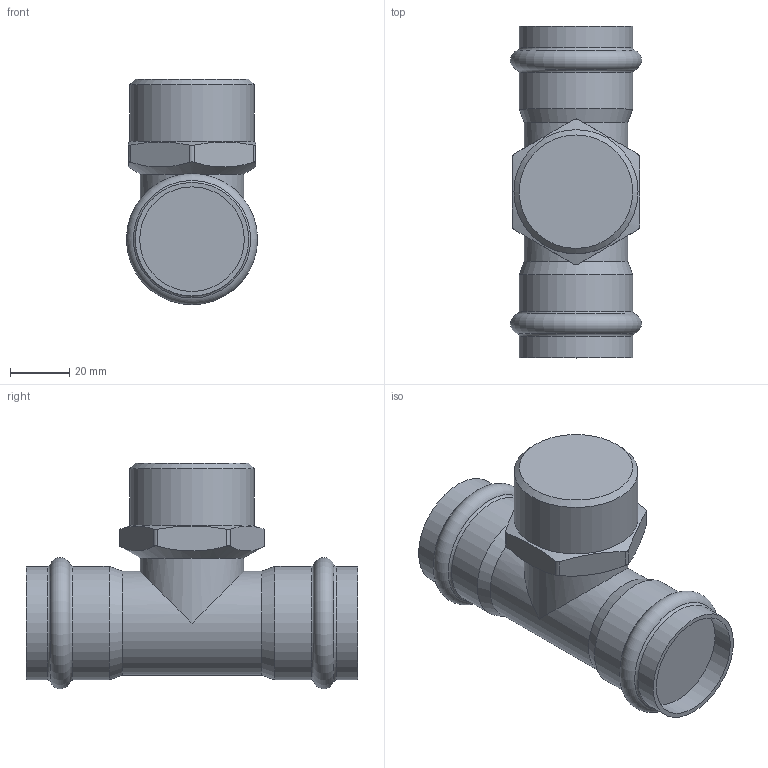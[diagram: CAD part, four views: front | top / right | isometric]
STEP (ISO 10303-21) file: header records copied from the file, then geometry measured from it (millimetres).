
FILE_DESCRIPTION(('STEP AP203'), '1');
FILE_NAME('VTi.933.I.350735', '', ('UNSPECIFIED'), ('UNSPECIFIED'), 'C3D Converter', 'C3D Toolkit', '');
FILE_SCHEMA(('CONFIG_CONTROL_DESIGN'));
Length unit declared in the file: millimetre
Bounding box: 44.28 x 112 x 76.14 mm (x, y, z)
Volume: 161271.7 mm3; surface area: 23834.1 mm2
Topology: 1 solids, 1 shells, 37 faces, 86 edges, 53 vertices
Faces by surface type: cylinder 15, plane 11, torus 6, cone 5
Full cylindrical faces by diameter (mm): 35 x2, 35.3 x2, 38.3 x4, 41.91 x1
Entity records: 1860 total; most frequent: CARTESIAN_POINT 1106, DIRECTION 134, ORIENTED_EDGE 130, EDGE_CURVE 65, AXIS2_PLACEMENT_3D 61, EDGE_LOOP 60, VERTEX_POINT 53, ADVANCED_FACE 37
